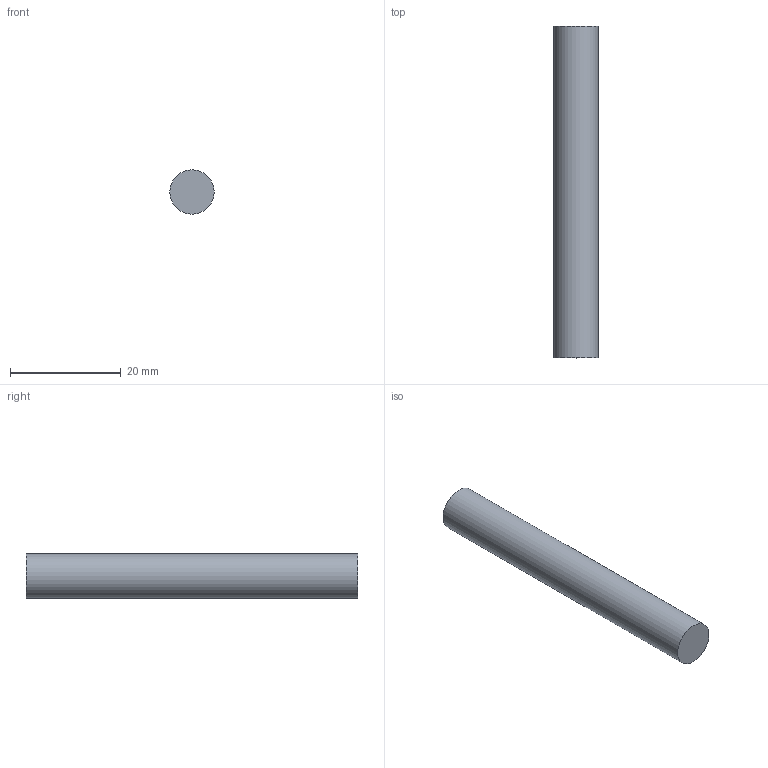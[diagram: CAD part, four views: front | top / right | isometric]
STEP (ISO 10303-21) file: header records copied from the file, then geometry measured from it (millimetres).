
FILE_DESCRIPTION(('Open CASCADE Model'),'2;1');
FILE_NAME('Open CASCADE Shape Model','2026-10-04T01:02:30',('Author'),( 'Open CASCADE'),'Open CASCADE STEP processor 8.0','Open CASCADE 8.0' ,'Unknown');
FILE_SCHEMA(('AUTOMOTIVE_DESIGN { 1 0 10303 214 1 1 1 1 }'));
Length unit declared in the file: millimetre
Products named in the file (1): Open CASCADE STEP translator 8.0 233
Bounding box: 8 x 60 x 8 mm (x, y, z)
Volume: 3015.9 mm3; surface area: 1608.5 mm2
Topology: 1 solids, 1 shells, 3 faces, 3 edges, 2 vertices
Faces by surface type: plane 2, cylinder 1
Full cylindrical faces by diameter (mm): 8 x1
Entity records: 108 total; most frequent: DIRECTION 19, CARTESIAN_POINT 15, AXIS2_PLACEMENT_3D 6, ORIENTED_EDGE 6, PCURVE 6, DEFINITIONAL_REPRESENTATION 6, LINE 5, VECTOR 5
